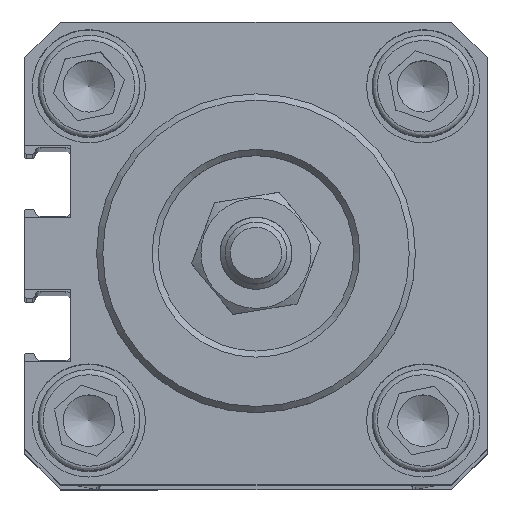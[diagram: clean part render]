
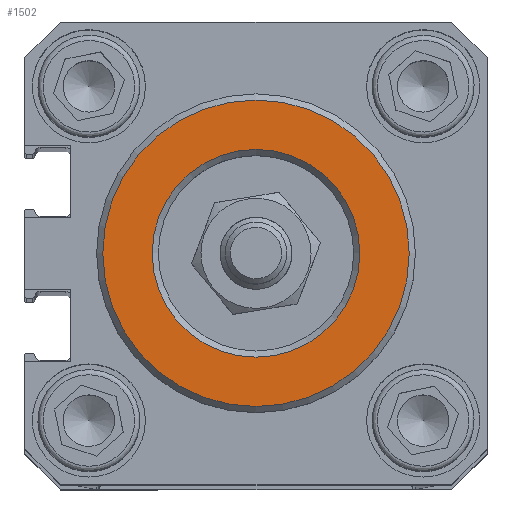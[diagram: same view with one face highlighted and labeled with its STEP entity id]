
A CAD part, top view. The second image highlights one B-rep face of the part: STEP entity #1502.
In plain terms, the highlighted planar face has unit normal (0, 0, 1).
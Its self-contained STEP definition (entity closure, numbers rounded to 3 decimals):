
#537 = DIRECTION ( 'NONE',  ( 0., 0., -1. ) ) ;
#1063 = ORIENTED_EDGE ( 'NONE', *, *, #14117, .T. ) ;
#1104 = VERTEX_POINT ( 'NONE', #12268 ) ;
#1431 = ORIENTED_EDGE ( 'NONE', *, *, #16292, .T. ) ;
#1502 = ADVANCED_FACE ( 'NONE', ( #13575, #10637 ), #14826, .T. ) ;
#1866 = CARTESIAN_POINT ( 'NONE',  ( 0., 0., 296. ) ) ;
#3282 = DIRECTION ( 'NONE',  ( 0., 0., 1. ) ) ;
#3853 = CIRCLE ( 'NONE', #4126, 10.1 ) ;
#4126 = AXIS2_PLACEMENT_3D ( 'NONE', #1866, #537, #11100 ) ;
#5353 = CARTESIAN_POINT ( 'NONE',  ( 0., 0., 296. ) ) ;
#6347 = DIRECTION ( 'NONE',  ( 0., 0., 1. ) ) ;
#6725 = AXIS2_PLACEMENT_3D ( 'NONE', #10074, #3282, #15025 ) ;
#7291 = CIRCLE ( 'NONE', #6725, 14.9 ) ;
#10074 = CARTESIAN_POINT ( 'NONE',  ( 0., 0., 296. ) ) ;
#10637 = FACE_BOUND ( 'NONE', #11912, .T. ) ;
#11100 = DIRECTION ( 'NONE',  ( -1., 0., 0. ) ) ;
#11912 = EDGE_LOOP ( 'NONE', ( #1063 ) ) ;
#12268 = CARTESIAN_POINT ( 'NONE',  ( -14.9, 0., 296. ) ) ;
#13315 = DIRECTION ( 'NONE',  ( -1., 0., 0. ) ) ;
#13575 = FACE_OUTER_BOUND ( 'NONE', #14321, .T. ) ;
#14117 = EDGE_CURVE ( 'NONE', #15836, #15836, #3853, .T. ) ;
#14321 = EDGE_LOOP ( 'NONE', ( #1431 ) ) ;
#14826 = PLANE ( 'NONE',  #15550 ) ;
#15025 = DIRECTION ( 'NONE',  ( -1., 0., 0. ) ) ;
#15550 = AXIS2_PLACEMENT_3D ( 'NONE', #5353, #6347, #13315 ) ;
#15836 = VERTEX_POINT ( 'NONE', #17251 ) ;
#16292 = EDGE_CURVE ( 'NONE', #1104, #1104, #7291, .T. ) ;
#17251 = CARTESIAN_POINT ( 'NONE',  ( -10.1, 0., 296. ) ) ;
